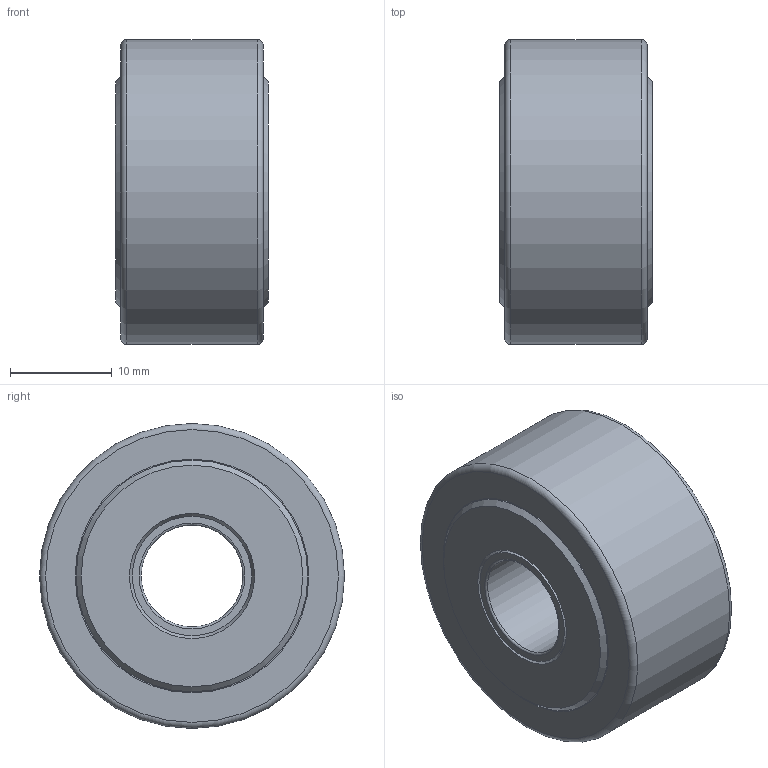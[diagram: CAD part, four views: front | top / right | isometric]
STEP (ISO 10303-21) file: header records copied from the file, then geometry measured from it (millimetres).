
FILE_DESCRIPTION(/* description */ (''),/* implementation_level */ '2;1');
FILE_NAME(/* name */ 'C:\Users\OUREHANEKD\Desktop\Ložiská 3D\MODELY\Ihlove loziska\NATR\NATR--\NATR10.stp',/* time_stamp */ '2016-10-18T14:44:40+02:00',/* author */ ('OUREHANEKD'),/* organization */ (''),/* preprocessor_version */ 'ST-DEVELOPER v15.6',/* originating_system */ 'Autodesk Inventor 2015',/* authorisation */ '');
FILE_SCHEMA (('AUTOMOTIVE_DESIGN { 1 0 10303 214 3 1 1 }'));
Length unit declared in the file: millimetre
Products named in the file (6): NATR10-01; NATR10-02; NATR10-kl; NATR10-needle; NATR10-kr; NATR10
Assembly tree (18 placements, depth 2):
  NATR10
    NATR10-01
    NATR10-02
    NATR10-kl
    NATR10-needle  x14
    NATR10-kr
Bounding box: 15 x 30 x 30 mm (x, y, z)
Volume: 8638.2 mm3; surface area: 7796 mm2
Topology: 19 solids, 19 shells, 78 faces, 100 edges, 64 vertices
Faces by surface type: plane 42, cylinder 28, torus 4, cone 4
Full cylindrical faces by diameter (mm): 2.825 x14, 10 x1, 11.75 x4, 12.8 x1, 14.491 x1, 16.759 x1, 18.45 x1, 22.8 x2, 23 x2, 30 x1
Entity records: 1025 total; most frequent: DIRECTION 202, CARTESIAN_POINT 139, AXIS2_PLACEMENT_3D 101, EDGE_LOOP 76, ORIENTED_EDGE 76, FACE_OUTER_BOUND 39, ADVANCED_FACE 39, CIRCLE 38
